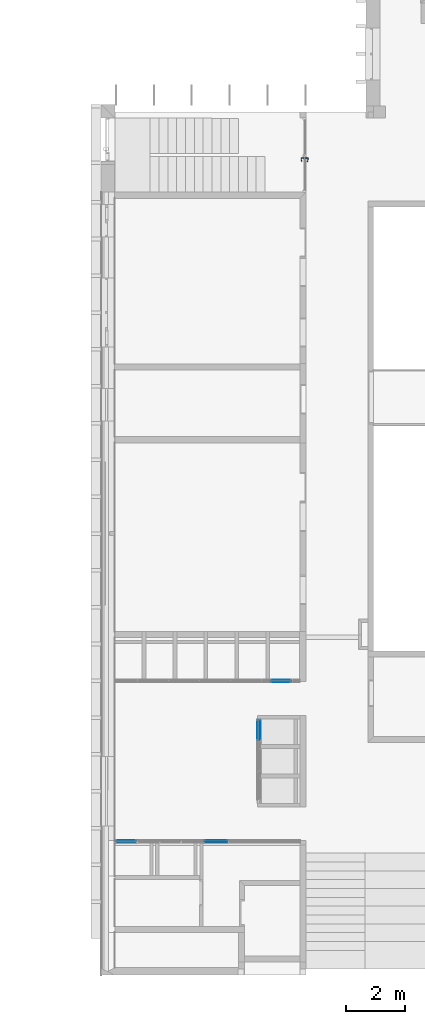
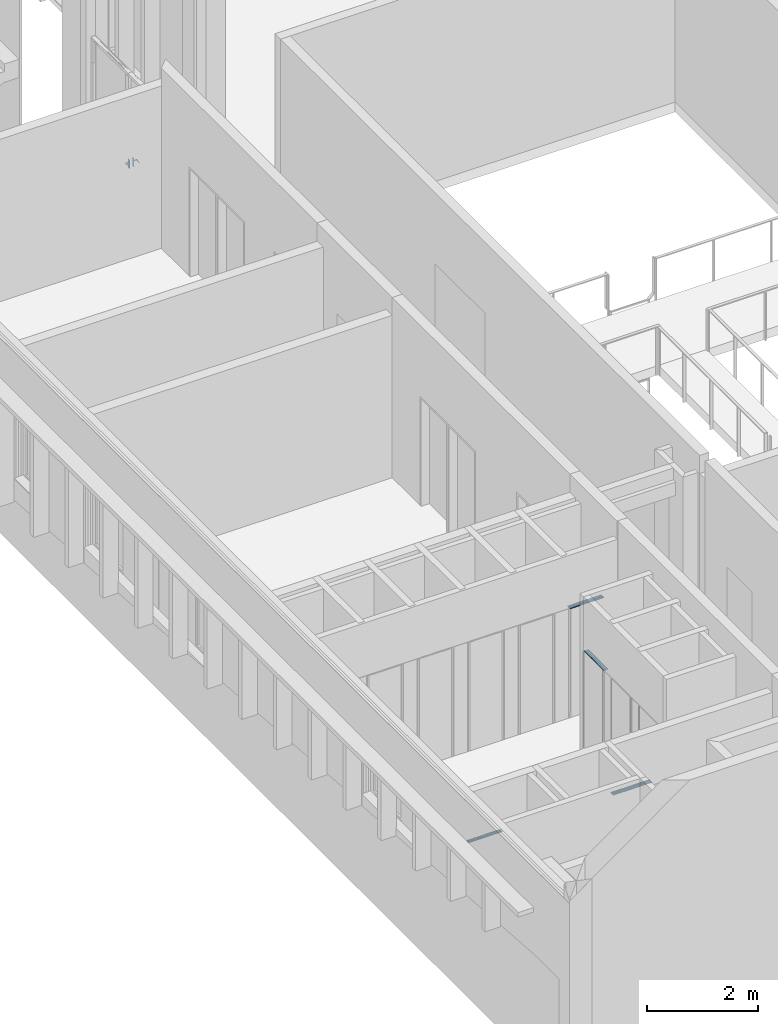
# One storey, part 65 of 89: 16 building element parts, 9 elements without a shape of their own.
"""IFC2X3 building model written with IfcOpenShell, lengths in millimetres."""

from ifc_helpers import new_model, entity, si_unit, converted_unit, derived_unit, money_unit, direction, frame, origin_with_axes, place, context, subcontext, project, spatial, open_shell, faceted_brep, surface_model, material, type_object, element, aggregate, save


model = new_model("IFC2X3")

# Units and contexts
model_context = context("Model", 3, precision=0.01, world=origin_with_axes(), true_north=direction((0.0, 1.0)))
body_context = subcontext(model_context, "Body", "Model", "MODEL_VIEW")
ifc_project = project(units=[si_unit("LENGTHUNIT", "METRE", prefix="MILLI"), si_unit("AREAUNIT", "SQUARE_METRE"), si_unit("VOLUMEUNIT", "CUBIC_METRE"), converted_unit("PLANEANGLEUNIT", "DEGREE", entity("IfcPlaneAngleMeasure", 0.0174532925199), si_unit("PLANEANGLEUNIT", "RADIAN"), dimensions=[0, 0, 0, 0, 0, 0, 0]), si_unit("SOLIDANGLEUNIT", "STERADIAN"), money_unit("EUR"), converted_unit("TIMEUNIT", "Year", entity("IfcTimeMeasure", 31556926.0), si_unit("TIMEUNIT", "SECOND"), dimensions=[0, 0, 1, 0, 0, 0, 0]), si_unit("MASSUNIT", "GRAM", prefix="KILO"), si_unit("THERMODYNAMICTEMPERATUREUNIT", "DEGREE_CELSIUS"), si_unit("LUMINOUSINTENSITYUNIT", "LUMEN"), si_unit("ENERGYUNIT", "JOULE", prefix="MEGA"), derived_unit("THERMALCONDUCTANCEUNIT", [(si_unit("POWERUNIT", "WATT"), 1), (si_unit("LENGTHUNIT", "METRE"), -1), (si_unit("THERMODYNAMICTEMPERATUREUNIT", "KELVIN"), -1)]), derived_unit("SPECIFICHEATCAPACITYUNIT", [(si_unit("ENERGYUNIT", "JOULE"), 1), (si_unit("MASSUNIT", "GRAM", prefix="KILO"), -1), (si_unit("THERMODYNAMICTEMPERATUREUNIT", "KELVIN"), -1)]), derived_unit("MASSDENSITYUNIT", [(si_unit("MASSUNIT", "GRAM", prefix="KILO"), 1), (si_unit("VOLUMEUNIT", "CUBIC_METRE"), -1)])], contexts=[model_context])

# Site, building, storey
site_placement = place(None, origin_with_axes())
site = spatial("IfcSite", under=ifc_project, at=site_placement, Name="Puškini 31, Narva", CompositionType="ELEMENT")
building_placement = place(site_placement, origin_with_axes())
building = spatial("IfcBuilding", under=site, at=building_placement, Name="Narva Riigigümnaasium", CompositionType="ELEMENT")
storey_placement = place(building_placement, frame((0.0, 0.0, -3300.0), z_axis=(0.0, 0.0, 1.0), x_axis=(1.0, 0.0, 0.0)))
storey = spatial("IfcBuildingStorey", under=building, at=storey_placement, Name="1.korrus -3.3", CompositionType="ELEMENT", Elevation=-3300.0)

# Curtain wall, plate, building element parts
curtain_wall_type = type_object("IfcCurtainWallType", Name="Curtain Wall Type", PredefinedType="NOTDEFINED")
curtain_wall_1_placement = place(storey_placement, frame((33249.9999781, 201010.999711, -1.71671428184e-05), z_axis=(0.0, 0.0, 1.0), x_axis=(1.0, 0.0, 0.0)))
curtain_wall_1 = element("IfcCurtainWall", 1, at=curtain_wall_1_placement, inside=storey, type_object=curtain_wall_type, Name="SUS-02")
plate_type_1 = type_object("IfcPlateType", Name="SA-Siseuksesüsteem-Paneel 700 x 10 x 0", PredefinedType="CURTAIN_PANEL")
plate_1_placement = place(curtain_wall_1_placement, frame((0.0, 2000.00000032, 2395.00000263), z_axis=(0.0, 0.0, 1.0), x_axis=(0.0, -1.0, 0.0)))
plate_1 = element("IfcPlate", 2, at=plate_1_placement, type_object=plate_type_1, Name="Panel-SA-Siseuks-083", ObjectType="CURTAIN_PANEL")
aggregate(curtain_wall_1, [plate_1])
ifc_material_1 = material(Name="MDF")
building_element_part_1_placement = place(plate_1_placement, origin_with_axes())
building_element_part_1 = element("IfcBuildingElementPart", 3, at=building_element_part_1_placement, material=ifc_material_1, Name="MDF", context=body_context, shape_type="Brep", body=[
    faceted_brep([(-350.0, 0.0, 5.0), (350.0, 0.0, 5.0), (350.0, 10.0, 5.0), (-350.0, 10.0, 5.0), (-350.0, 0.0, -5.0), (350.0, 0.0, -5.0), (350.0, 10.0, -5.0), (-350.0, 10.0, -5.0)], [[[0, 1, 2, 3]], [[0, 4, 5, 1]], [[1, 5, 6, 2]], [[3, 2, 6, 7]], [[4, 0, 3, 7]], [[5, 4, 7, 6]]]),
    faceted_brep([(-350.0, 84.0, 5.0), (350.0, 84.0, 5.0), (350.0, 92.0, 5.0), (-350.0, 92.0, 5.0), (-350.0, 84.0, -5.0), (350.0, 84.0, -5.0), (350.0, 92.0, -5.0), (-350.0, 92.0, -5.0)], [[[0, 1, 2, 3]], [[0, 4, 5, 1]], [[1, 5, 6, 2]], [[3, 2, 6, 7]], [[4, 0, 3, 7]], [[5, 4, 7, 6]]]),
])
ifc_material_2 = material(Name="Õhkvahe")
building_element_part_2_placement = place(plate_1_placement, origin_with_axes())
building_element_part_2 = element("IfcBuildingElementPart", 4, at=building_element_part_2_placement, material=ifc_material_2, Name="Õhkvahe", context=body_context, shape_type="Brep", body=[
    faceted_brep([(-350.0, 10.0, 5.0), (350.0, 10.0, 5.0), (350.0, 12.0, 5.0), (-350.0, 12.0, 5.0), (-350.0, 10.0, -5.0), (350.0, 10.0, -5.0), (350.0, 12.0, -5.0), (-350.0, 12.0, -5.0)], [[[0, 1, 2, 3]], [[0, 4, 5, 1]], [[1, 5, 6, 2]], [[3, 2, 6, 7]], [[4, 0, 3, 7]], [[5, 4, 7, 6]]]),
    faceted_brep([(-350.0, 38.0, 5.0), (350.0, 38.0, 5.0), (350.0, 42.0, 5.0), (-350.0, 42.0, 5.0), (-350.0, 38.0, -5.0), (350.0, 38.0, -5.0), (350.0, 42.0, -5.0), (-350.0, 42.0, -5.0)], [[[0, 1, 2, 3]], [[0, 4, 5, 1]], [[1, 5, 6, 2]], [[3, 2, 6, 7]], [[4, 0, 3, 7]], [[5, 4, 7, 6]]]),
    faceted_brep([(-350.0, 79.0, 5.0), (350.0, 79.0, 5.0), (350.0, 84.0, 5.0), (-350.0, 84.0, 5.0), (-350.0, 79.0, -5.0), (350.0, 79.0, -5.0), (350.0, 84.0, -5.0), (-350.0, 84.0, -5.0)], [[[0, 1, 2, 3]], [[0, 4, 5, 1]], [[1, 5, 6, 2]], [[3, 2, 6, 7]], [[4, 0, 3, 7]], [[5, 4, 7, 6]]]),
])
ifc_material_3 = material(Name="Kipsplaat")
building_element_part_3_placement = place(plate_1_placement, origin_with_axes())
building_element_part_3 = element("IfcBuildingElementPart", 5, at=building_element_part_3_placement, material=ifc_material_3, Name="Kipsplaat", context=body_context, shape_type="Brep", body=[
    faceted_brep([(-350.0, 12.0, 5.0), (350.0, 12.0, 5.0), (350.0, 25.0, 5.0), (-350.0, 25.0, 5.0), (-350.0, 12.0, -5.0), (350.0, 12.0, -5.0), (350.0, 25.0, -5.0), (-350.0, 25.0, -5.0)], [[[0, 1, 2, 3]], [[0, 4, 5, 1]], [[1, 5, 6, 2]], [[3, 2, 6, 7]], [[4, 0, 3, 7]], [[5, 4, 7, 6]]]),
    faceted_brep([(-350.0, 25.0, 5.0), (350.0, 25.0, 5.0), (350.0, 38.0, 5.0), (-350.0, 38.0, 5.0), (-350.0, 25.0, -5.0), (350.0, 25.0, -5.0), (350.0, 38.0, -5.0), (-350.0, 38.0, -5.0)], [[[0, 1, 2, 3]], [[0, 4, 5, 1]], [[1, 5, 6, 2]], [[3, 2, 6, 7]], [[4, 0, 3, 7]], [[5, 4, 7, 6]]]),
])
ifc_material_4 = material(Name="Klaasvill")
building_element_part_4_placement = place(plate_1_placement, origin_with_axes())
building_element_part_4 = element("IfcBuildingElementPart", 6, at=building_element_part_4_placement, material=ifc_material_4, Name="Klaasvill", context=body_context, shape_type="Brep", body=[
    faceted_brep([(-350.0, 42.0, 5.0), (350.0, 42.0, 5.0), (350.0, 79.0, 5.0), (-350.0, 79.0, 5.0), (-350.0, 42.0, -5.0), (350.0, 42.0, -5.0), (350.0, 79.0, -5.0), (-350.0, 79.0, -5.0)], [[[0, 1, 2, 3]], [[0, 4, 5, 1]], [[1, 5, 6, 2]], [[3, 2, 6, 7]], [[4, 0, 3, 7]], [[5, 4, 7, 6]]]),
])
aggregate(plate_1, [building_element_part_1, building_element_part_2, building_element_part_3, building_element_part_4])

# Curtain wall, plates, building element parts
curtain_wall_2_placement = place(storey_placement, frame((28798.9958137, 199279.999716, 0.0), z_axis=(0.0, 0.0, 1.0), x_axis=(1.0, 0.0, 0.0)))
curtain_wall_2 = element("IfcCurtainWall", 7, at=curtain_wall_2_placement, inside=storey, type_object=curtain_wall_type, Name="SUS-01")
plate_2_placement = place(curtain_wall_2_placement, frame((0.0, 0.0, 2394.9999372), z_axis=(0.0, 0.0, 1.0), x_axis=(-1.0, 0.0, 0.0)))
plate_2 = element("IfcPlate", 8, at=plate_2_placement, type_object=plate_type_1, Name="Panel-SA-Siseuks-090", ObjectType="CURTAIN_PANEL")
building_element_part_5_placement = place(plate_2_placement, origin_with_axes())
building_element_part_5 = element("IfcBuildingElementPart", 9, at=building_element_part_5_placement, material=ifc_material_2, Name="Õhkvahe", context=body_context, shape_type="Brep", body=[
    faceted_brep([(-350.004185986, 9.99999999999, 5.0), (350.004185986, 9.99999999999, 5.0), (350.004185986, 12.0, 5.0), (-350.004185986, 12.0, 5.0), (-350.004185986, 9.99999999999, -5.0), (350.004185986, 9.99999999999, -5.0), (350.004185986, 12.0, -5.0), (-350.004185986, 12.0, -5.0)], [[[0, 1, 2, 3]], [[0, 4, 5, 1]], [[1, 5, 6, 2]], [[3, 2, 6, 7]], [[4, 0, 3, 7]], [[5, 4, 7, 6]]]),
    faceted_brep([(-350.004185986, 38.0, 5.0), (350.004185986, 38.0, 5.0), (350.004185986, 42.0, 5.0), (-350.004185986, 42.0, 5.0), (-350.004185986, 38.0, -5.0), (350.004185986, 38.0, -5.0), (350.004185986, 42.0, -5.0), (-350.004185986, 42.0, -5.0)], [[[0, 1, 2, 3]], [[0, 4, 5, 1]], [[1, 5, 6, 2]], [[3, 2, 6, 7]], [[4, 0, 3, 7]], [[5, 4, 7, 6]]]),
    faceted_brep([(-350.004185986, 79.0, 5.0), (350.004185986, 79.0, 5.0), (350.004185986, 84.0, 5.0), (-350.004185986, 84.0, 5.0), (-350.004185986, 79.0, -5.0), (350.004185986, 79.0, -5.0), (350.004185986, 84.0, -5.0), (-350.004185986, 84.0, -5.0)], [[[0, 1, 2, 3]], [[0, 4, 5, 1]], [[1, 5, 6, 2]], [[3, 2, 6, 7]], [[4, 0, 3, 7]], [[5, 4, 7, 6]]]),
])
building_element_part_6_placement = place(plate_2_placement, origin_with_axes())
building_element_part_6 = element("IfcBuildingElementPart", 10, at=building_element_part_6_placement, material=ifc_material_3, Name="Kipsplaat", context=body_context, shape_type="Brep", body=[
    faceted_brep([(-350.004185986, 12.0, 5.0), (350.004185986, 12.0, 5.0), (350.004185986, 25.0, 5.0), (-350.004185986, 25.0, 5.0), (-350.004185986, 12.0, -5.0), (350.004185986, 12.0, -5.0), (350.004185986, 25.0, -5.0), (-350.004185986, 25.0, -5.0)], [[[0, 1, 2, 3]], [[0, 4, 5, 1]], [[1, 5, 6, 2]], [[3, 2, 6, 7]], [[4, 0, 3, 7]], [[5, 4, 7, 6]]]),
    faceted_brep([(-350.004185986, 25.0, 5.0), (350.004185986, 25.0, 5.0), (350.004185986, 38.0, 5.0), (-350.004185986, 38.0, 5.0), (-350.004185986, 25.0, -5.0), (350.004185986, 25.0, -5.0), (350.004185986, 38.0, -5.0), (-350.004185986, 38.0, -5.0)], [[[0, 1, 2, 3]], [[0, 4, 5, 1]], [[1, 5, 6, 2]], [[3, 2, 6, 7]], [[4, 0, 3, 7]], [[5, 4, 7, 6]]]),
])
building_element_part_7_placement = place(plate_2_placement, origin_with_axes())
building_element_part_7 = element("IfcBuildingElementPart", 11, at=building_element_part_7_placement, material=ifc_material_4, Name="Klaasvill", context=body_context, shape_type="Brep", body=[
    faceted_brep([(-350.004185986, 42.0, 5.0), (350.004185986, 42.0, 5.0), (350.004185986, 79.0, 5.0), (-350.004185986, 79.0, 5.0), (-350.004185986, 42.0, -5.0), (350.004185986, 42.0, -5.0), (350.004185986, 79.0, -5.0), (-350.004185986, 79.0, -5.0)], [[[0, 1, 2, 3]], [[0, 4, 5, 1]], [[1, 5, 6, 2]], [[3, 2, 6, 7]], [[4, 0, 3, 7]], [[5, 4, 7, 6]]]),
])
aggregate(plate_2, [building_element_part_5, building_element_part_6, building_element_part_7])
plate_type_2 = type_object("IfcPlateType", Name="SA-Siseuksesüsteem-Paneel 800 x 10 x 0", PredefinedType="CURTAIN_PANEL")
plate_3_placement = place(curtain_wall_2_placement, frame((3050.00418599, 0.0, 2394.9999372), z_axis=(0.0, 0.0, 1.0), x_axis=(-1.0, 0.0, 0.0)))
plate_3 = element("IfcPlate", 12, at=plate_3_placement, type_object=plate_type_2, Name="Panel-SA-Siseuks-094", ObjectType="CURTAIN_PANEL")
aggregate(curtain_wall_2, [plate_2, plate_3])
building_element_part_8_placement = place(plate_3_placement, origin_with_axes())
building_element_part_8 = element("IfcBuildingElementPart", 13, at=building_element_part_8_placement, material=ifc_material_1, Name="MDF", context=body_context, shape_type="Brep", body=[
    faceted_brep([(-400.0, 0.0, 5.0), (400.0, 0.0, 5.0), (400.0, 9.99999999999, 5.0), (-400.0, 9.99999999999, 5.0), (-400.0, 0.0, -5.0), (400.0, 0.0, -5.0), (400.0, 9.99999999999, -5.0), (-400.0, 9.99999999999, -5.0)], [[[0, 1, 2, 3]], [[0, 4, 5, 1]], [[1, 5, 6, 2]], [[3, 2, 6, 7]], [[4, 0, 3, 7]], [[5, 4, 7, 6]]]),
    faceted_brep([(-400.0, 84.0, 5.0), (400.0, 84.0, 5.0), (400.0, 92.0, 5.0), (-400.0, 92.0, 5.0), (-400.0, 84.0, -5.0), (400.0, 84.0, -5.0), (400.0, 92.0, -5.0), (-400.0, 92.0, -5.0)], [[[0, 1, 2, 3]], [[0, 4, 5, 1]], [[1, 5, 6, 2]], [[3, 2, 6, 7]], [[4, 0, 3, 7]], [[5, 4, 7, 6]]]),
])
building_element_part_9_placement = place(plate_3_placement, origin_with_axes())
building_element_part_9 = element("IfcBuildingElementPart", 14, at=building_element_part_9_placement, material=ifc_material_2, Name="Õhkvahe", context=body_context, shape_type="Brep", body=[
    faceted_brep([(-400.0, 9.99999999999, 5.0), (400.0, 9.99999999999, 5.0), (400.0, 12.0, 5.0), (-400.0, 12.0, 5.0), (-400.0, 9.99999999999, -5.0), (400.0, 9.99999999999, -5.0), (400.0, 12.0, -5.0), (-400.0, 12.0, -5.0)], [[[0, 1, 2, 3]], [[0, 4, 5, 1]], [[1, 5, 6, 2]], [[3, 2, 6, 7]], [[4, 0, 3, 7]], [[5, 4, 7, 6]]]),
    faceted_brep([(-400.0, 38.0, 5.0), (400.0, 38.0, 5.0), (400.0, 42.0, 5.0), (-400.0, 42.0, 5.0), (-400.0, 38.0, -5.0), (400.0, 38.0, -5.0), (400.0, 42.0, -5.0), (-400.0, 42.0, -5.0)], [[[0, 1, 2, 3]], [[0, 4, 5, 1]], [[1, 5, 6, 2]], [[3, 2, 6, 7]], [[4, 0, 3, 7]], [[5, 4, 7, 6]]]),
    faceted_brep([(-400.0, 79.0, 5.0), (400.0, 79.0, 5.0), (400.0, 84.0, 5.0), (-400.0, 84.0, 5.0), (-400.0, 79.0, -5.0), (400.0, 79.0, -5.0), (400.0, 84.0, -5.0), (-400.0, 84.0, -5.0)], [[[0, 1, 2, 3]], [[0, 4, 5, 1]], [[1, 5, 6, 2]], [[3, 2, 6, 7]], [[4, 0, 3, 7]], [[5, 4, 7, 6]]]),
])
building_element_part_10_placement = place(plate_3_placement, origin_with_axes())
building_element_part_10 = element("IfcBuildingElementPart", 15, at=building_element_part_10_placement, material=ifc_material_3, Name="Kipsplaat", context=body_context, shape_type="Brep", body=[
    faceted_brep([(-400.0, 12.0, 5.0), (400.0, 12.0, 5.0), (400.0, 25.0, 5.0), (-400.0, 25.0, 5.0), (-400.0, 12.0, -5.0), (400.0, 12.0, -5.0), (400.0, 25.0, -5.0), (-400.0, 25.0, -5.0)], [[[0, 1, 2, 3]], [[0, 4, 5, 1]], [[1, 5, 6, 2]], [[3, 2, 6, 7]], [[4, 0, 3, 7]], [[5, 4, 7, 6]]]),
    faceted_brep([(-400.0, 25.0, 5.0), (400.0, 25.0, 5.0), (400.0, 38.0, 5.0), (-400.0, 38.0, 5.0), (-400.0, 25.0, -5.0), (400.0, 25.0, -5.0), (400.0, 38.0, -5.0), (-400.0, 38.0, -5.0)], [[[0, 1, 2, 3]], [[0, 4, 5, 1]], [[1, 5, 6, 2]], [[3, 2, 6, 7]], [[4, 0, 3, 7]], [[5, 4, 7, 6]]]),
])
building_element_part_11_placement = place(plate_3_placement, origin_with_axes())
building_element_part_11 = element("IfcBuildingElementPart", 16, at=building_element_part_11_placement, material=ifc_material_4, Name="Klaasvill", context=body_context, shape_type="Brep", body=[
    faceted_brep([(-400.0, 42.0, 5.0), (400.0, 42.0, 5.0), (400.0, 79.0, 5.0), (-400.0, 79.0, 5.0), (-400.0, 42.0, -5.0), (400.0, 42.0, -5.0), (400.0, 79.0, -5.0), (-400.0, 79.0, -5.0)], [[[0, 1, 2, 3]], [[0, 4, 5, 1]], [[1, 5, 6, 2]], [[3, 2, 6, 7]], [[4, 0, 3, 7]], [[5, 4, 7, 6]]]),
])
aggregate(plate_3, [building_element_part_8, building_element_part_9, building_element_part_10, building_element_part_11])

# Curtain wall, plate, building element parts
curtain_wall_3_placement = place(storey_placement, frame((34541.9999996, 204639.999743, 1.06559201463e-05), z_axis=(0.0, 0.0, 1.0), x_axis=(1.0, 0.0, 0.0)))
curtain_wall_3 = element("IfcCurtainWall", 17, at=curtain_wall_3_placement, inside=storey, type_object=curtain_wall_type, Name="SUS-03")
plate_4_placement = place(curtain_wall_3_placement, frame((-493.087583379, 0.0, 2394.99996419), z_axis=(0.0, 0.0, 1.0), x_axis=(1.0, 0.0, 0.0)))
plate_4 = element("IfcPlate", 18, at=plate_4_placement, type_object=plate_type_1, Name="Panel-SA-Siseuks-063", ObjectType="CURTAIN_PANEL")
aggregate(curtain_wall_3, [plate_4])
building_element_part_12_placement = place(plate_4_placement, origin_with_axes())
building_element_part_12 = element("IfcBuildingElementPart", 19, at=building_element_part_12_placement, material=ifc_material_1, Name="MDF", context=body_context, shape_type="Brep", body=[
    faceted_brep([(-350.087583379, 0.0, 5.00000532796), (350.087583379, 0.0, 5.00000532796), (350.087583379, 9.99999999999, 5.00000532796), (-350.087583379, 9.99999999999, 5.00000532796), (-350.087583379, 0.0, -5.00000532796), (350.087583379, 0.0, -5.00000532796), (350.087583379, 9.99999999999, -5.00000532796), (-350.087583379, 9.99999999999, -5.00000532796)], [[[0, 1, 2, 3]], [[0, 4, 5, 1]], [[1, 5, 6, 2]], [[3, 2, 6, 7]], [[4, 0, 3, 7]], [[5, 4, 7, 6]]]),
    faceted_brep([(-350.087583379, 84.0, 5.00000532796), (350.087583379, 84.0, 5.00000532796), (350.087583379, 92.0, 5.00000532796), (-350.087583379, 92.0, 5.00000532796), (-350.087583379, 84.0, -5.00000532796), (350.087583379, 84.0, -5.00000532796), (350.087583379, 92.0, -5.00000532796), (-350.087583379, 92.0, -5.00000532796)], [[[0, 1, 2, 3]], [[0, 4, 5, 1]], [[1, 5, 6, 2]], [[3, 2, 6, 7]], [[4, 0, 3, 7]], [[5, 4, 7, 6]]]),
])
building_element_part_13_placement = place(plate_4_placement, origin_with_axes())
building_element_part_13 = element("IfcBuildingElementPart", 20, at=building_element_part_13_placement, material=ifc_material_2, Name="Õhkvahe", context=body_context, shape_type="Brep", body=[
    faceted_brep([(-350.087583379, 9.99999999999, 5.00000532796), (350.087583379, 9.99999999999, 5.00000532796), (350.087583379, 12.0, 5.00000532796), (-350.087583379, 12.0, 5.00000532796), (-350.087583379, 9.99999999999, -5.00000532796), (350.087583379, 9.99999999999, -5.00000532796), (350.087583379, 12.0, -5.00000532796), (-350.087583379, 12.0, -5.00000532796)], [[[0, 1, 2, 3]], [[0, 4, 5, 1]], [[1, 5, 6, 2]], [[3, 2, 6, 7]], [[4, 0, 3, 7]], [[5, 4, 7, 6]]]),
    faceted_brep([(-350.087583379, 38.0, 5.00000532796), (350.087583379, 38.0, 5.00000532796), (350.087583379, 42.0, 5.00000532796), (-350.087583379, 42.0, 5.00000532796), (-350.087583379, 38.0, -5.00000532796), (350.087583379, 38.0, -5.00000532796), (350.087583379, 42.0, -5.00000532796), (-350.087583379, 42.0, -5.00000532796)], [[[0, 1, 2, 3]], [[0, 4, 5, 1]], [[1, 5, 6, 2]], [[3, 2, 6, 7]], [[4, 0, 3, 7]], [[5, 4, 7, 6]]]),
    faceted_brep([(-350.087583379, 79.0, 5.00000532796), (350.087583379, 79.0, 5.00000532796), (350.087583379, 84.0, 5.00000532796), (-350.087583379, 84.0, 5.00000532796), (-350.087583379, 79.0, -5.00000532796), (350.087583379, 79.0, -5.00000532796), (350.087583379, 84.0, -5.00000532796), (-350.087583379, 84.0, -5.00000532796)], [[[0, 1, 2, 3]], [[0, 4, 5, 1]], [[1, 5, 6, 2]], [[3, 2, 6, 7]], [[4, 0, 3, 7]], [[5, 4, 7, 6]]]),
])
building_element_part_14_placement = place(plate_4_placement, origin_with_axes())
building_element_part_14 = element("IfcBuildingElementPart", 21, at=building_element_part_14_placement, material=ifc_material_3, Name="Kipsplaat", context=body_context, shape_type="Brep", body=[
    faceted_brep([(-350.087583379, 12.0, 5.00000532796), (350.087583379, 12.0, 5.00000532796), (350.087583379, 25.0, 5.00000532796), (-350.087583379, 25.0, 5.00000532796), (-350.087583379, 12.0, -5.00000532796), (350.087583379, 12.0, -5.00000532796), (350.087583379, 25.0, -5.00000532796), (-350.087583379, 25.0, -5.00000532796)], [[[0, 1, 2, 3]], [[0, 4, 5, 1]], [[1, 5, 6, 2]], [[3, 2, 6, 7]], [[4, 0, 3, 7]], [[5, 4, 7, 6]]]),
    faceted_brep([(-350.087583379, 25.0, 5.00000532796), (350.087583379, 25.0, 5.00000532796), (350.087583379, 38.0, 5.00000532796), (-350.087583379, 38.0, 5.00000532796), (-350.087583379, 25.0, -5.00000532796), (350.087583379, 25.0, -5.00000532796), (350.087583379, 38.0, -5.00000532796), (-350.087583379, 38.0, -5.00000532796)], [[[0, 1, 2, 3]], [[0, 4, 5, 1]], [[1, 5, 6, 2]], [[3, 2, 6, 7]], [[4, 0, 3, 7]], [[5, 4, 7, 6]]]),
])
building_element_part_15_placement = place(plate_4_placement, origin_with_axes())
building_element_part_15 = element("IfcBuildingElementPart", 22, at=building_element_part_15_placement, material=ifc_material_4, Name="Klaasvill", context=body_context, shape_type="Brep", body=[
    faceted_brep([(-350.087583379, 42.0, 5.00000532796), (350.087583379, 42.0, 5.00000532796), (350.087583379, 79.0, 5.00000532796), (-350.087583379, 79.0, 5.00000532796), (-350.087583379, 42.0, -5.00000532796), (350.087583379, 42.0, -5.00000532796), (350.087583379, 79.0, -5.00000532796), (-350.087583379, 79.0, -5.00000532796)], [[[0, 1, 2, 3]], [[0, 4, 5, 1]], [[1, 5, 6, 2]], [[3, 2, 6, 7]], [[4, 0, 3, 7]], [[5, 4, 7, 6]]]),
])
aggregate(plate_4, [building_element_part_12, building_element_part_13, building_element_part_14, building_element_part_15])

# Curtain wall, door, building element part
curtain_wall_4_placement = place(storey_placement, frame((34855.0104166, 221770.599999, -2.45869391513e-05), z_axis=(0.0, 0.0, 1.0), x_axis=(1.0, 0.0, 0.0)))
curtain_wall_4 = element("IfcCurtainWall", 23, at=curtain_wall_4_placement, inside=storey, type_object=curtain_wall_type, Name="G-SKLF-08")
door_style = type_object("IfcDoorStyle", Name="1132 x 2369 x 20", ConstructionType="NOTDEFINED", OperationType="NOTDEFINED", ParameterTakesPrecedence=False, Sizeable=False)
door_placement = place(curtain_wall_4_placement, frame((0.0, 0.0, 960.000024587), z_axis=(0.0, 0.0, 1.0), x_axis=(4.3055573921e-06, -0.999999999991, 0.0)))
door = element("IfcDoor", 24, at=door_placement, type_object=door_style, Name="G-SKLF-08-U1", ObjectType="DOOR")
aggregate(curtain_wall_4, [door])
ifc_material_5 = material(Name="ET-07_Teras - Roostevaba")
building_element_part_16_placement = place(door_placement, origin_with_axes())
building_element_part_16 = element("IfcBuildingElementPart", 25, at=building_element_part_16_placement, material=ifc_material_5, Name="ET-07_Teras - Roostevaba", context=body_context, shape_type="SurfaceModel", body=[
    faceted_brep([(-697.9, -45.0, 120.0), (-697.9, -48.0, 120.0), (-640.9, -48.0, 120.0), (-640.9, -45.0, 120.0), (-697.9, -45.0, -70.0), (-697.9, -48.0, -70.0), (-640.9, -48.0, -70.0), (-640.9, -45.0, -70.0)], [[[0, 1, 2, 3]], [[4, 5, 1, 0]], [[1, 5, 6, 2]], [[3, 2, 6, 7]], [[0, 3, 7, 4]], [[7, 6, 5, 4]]]),
    surface_model("IfcShellBasedSurfaceModel", [(-669.4, -109.0, 50.0), (-669.4, -116.0, 50.0), (-678.060254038, -116.0, 55.0), (-678.060254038, -109.0, 55.0), (-644.4, -109.0, 50.0), (-644.4, -116.0, 50.0), (-644.4, -116.0, 70.0), (-669.4, -116.0, 70.0), (-678.060254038, -116.0, 65.0), (-678.060254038, -109.0, 65.0), (-669.4, -109.0, 70.0), (-644.4, -109.0, 70.0)], [open_shell([[[0, 1, 2, 3]], [[4, 5, 1, 0]], [[1, 5, 6, 7, 8, 2]], [[3, 2, 8, 9]], [[0, 3, 9, 10, 11, 4]], [[10, 7, 6, 11]], [[9, 8, 7, 10]]])]),
    surface_model("IfcShellBasedSurfaceModel", [(-644.4, -109.0, 70.0), (-630.996090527, -116.0, 69.6073009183), (-631.301717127, -109.0, 69.6073009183), (-644.4, -116.0, 70.0), (-604.290283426, -113.663544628, 68.8219027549), (-631.301717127, -109.0, 50.3926990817), (-644.4, -109.0, 50.0), (-644.4, -116.0, 50.0), (-630.996090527, -116.0, 50.3926990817), (-604.290283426, -113.663544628, 51.1780972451), (-605.204837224, -106.716818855, 68.8219027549), (-605.204837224, -106.716818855, 51.1780972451), (-577.889735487, -109.008415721, 51.9634954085), (-577.889735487, -109.008415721, 68.0365045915), (-579.406256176, -102.167832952, 68.0365045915), (-579.406256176, -102.167832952, 51.9634954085), (-551.99537082, -102.07004162, 52.7488935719), (-551.99537082, -102.07004162, 67.2511064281), (-554.102316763, -95.3876628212, 67.2511064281), (-554.102316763, -95.3876628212, 52.7488935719), (-543.938795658, -99.1376880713, 53.0), (-543.938795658, -99.1376880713, 67.0), (-546.229442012, -92.5221707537, 67.0), (-546.229442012, -92.5221707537, 53.0)], [open_shell([[[0, 1, 2]], [[0, 3, 1]], [[2, 1, 4]], [[0, 2, 5, 6]], [[3, 7, 8, 1]], [[1, 8, 9, 4]], [[2, 4, 10]], [[2, 10, 11, 5]], [[5, 7, 6]], [[5, 8, 7]], [[11, 9, 8]], [[4, 9, 12, 13]], [[10, 4, 13]], [[10, 14, 15, 11]], [[11, 8, 5]], [[15, 9, 11]], [[15, 12, 9]], [[13, 12, 16, 17]], [[10, 13, 14]], [[14, 18, 19, 15]], [[19, 12, 15]], [[19, 16, 12]], [[17, 16, 20, 21]], [[14, 13, 17]], [[14, 17, 18]], [[18, 22, 23, 19]], [[23, 16, 19]], [[23, 20, 16]], [[22, 21, 20, 23]], [[18, 17, 21]], [[18, 21, 22]]])]),
    faceted_brep([(-665.691796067, -58.0, 48.5873218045), (-665.382779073, -48.0, 47.6362652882), (-656.4, -48.0, 60.0), (-657.4, -58.0, 60.0), (-679.108203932, -58.0, 52.9465769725), (-679.917220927, -48.0, 52.3587917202), (-679.917220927, -48.0, 67.6412082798), (-665.382779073, -48.0, 72.3637347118), (-665.691796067, -58.0, 71.4126781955), (-679.108203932, -58.0, 67.0534230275)], [[[0, 1, 2, 3]], [[4, 5, 1, 0]], [[2, 1, 5, 6, 7]], [[3, 2, 7, 8]], [[3, 8, 9, 4, 0]], [[9, 6, 5, 4]], [[8, 7, 6, 9]]]),
    faceted_brep([(-663.219660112, -52.0, -54.0211303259), (-662.601626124, -48.0, -55.9232433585), (-647.4, -48.0, -35.0), (-649.4, -52.0, -35.0), (-685.580339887, -52.0, -46.7557050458), (-687.198373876, -48.0, -47.9312755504), (-687.198373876, -48.0, -22.0687244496), (-662.601626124, -48.0, -14.0767566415), (-663.219660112, -52.0, -15.9788696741), (-685.580339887, -52.0, -23.2442949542)], [[[0, 1, 2, 3]], [[4, 5, 1, 0]], [[2, 1, 5, 6, 7]], [[3, 2, 7, 8]], [[3, 8, 9, 4, 0]], [[9, 6, 5, 4]], [[8, 7, 6, 9]]]),
    faceted_brep([(-667.236881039, -54.0, -32.6573956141), (-666.927864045, -52.0, -33.6084521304), (-661.4, -52.0, -26.0), (-662.4, -54.0, -26.0), (-675.063118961, -54.0, -30.114496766), (-675.872135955, -52.0, -30.7022820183), (-675.872135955, -52.0, -21.2977179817), (-666.927864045, -52.0, -18.3915478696), (-667.236881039, -54.0, -19.3426043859), (-675.063118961, -54.0, -21.885503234)], [[[0, 1, 2, 3]], [[4, 5, 1, 0]], [[2, 1, 5, 6, 7]], [[3, 2, 7, 8]], [[3, 8, 9, 4, 0]], [[9, 6, 5, 4]], [[8, 7, 6, 9]]]),
    faceted_brep([(-669.4, -58.0, 70.0), (-669.4, -109.0, 70.0), (-659.889434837, -109.0, 63.0901699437), (-659.889434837, -58.0, 63.0901699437), (-678.910565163, -58.0, 63.0901699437), (-678.910565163, -109.0, 63.0901699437), (-675.277852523, -109.0, 51.9098300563), (-663.522147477, -109.0, 51.9098300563), (-663.522147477, -58.0, 51.9098300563), (-675.277852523, -58.0, 51.9098300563)], [[[0, 1, 2, 3]], [[4, 5, 1, 0]], [[1, 5, 6, 7, 2]], [[3, 2, 7, 8]], [[0, 3, 8, 9, 4]], [[9, 6, 5, 4]], [[8, 7, 6, 9]]]),
    faceted_brep([(-697.9, 45.0, 120.0), (-640.9, 45.0, 120.0), (-640.9, 48.0, 120.0), (-697.9, 48.0, 120.0), (-697.9, 45.0, -70.0), (-640.9, 45.0, -70.0), (-640.9, 48.0, -70.0), (-697.9, 48.0, -70.0)], [[[0, 1, 2, 3]], [[0, 4, 5, 1]], [[1, 5, 6, 2]], [[3, 2, 6, 7]], [[4, 0, 3, 7]], [[5, 4, 7, 6]]]),
    surface_model("IfcShellBasedSurfaceModel", [(-669.4, 109.0, 50.0), (-678.060254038, 109.0, 55.0), (-678.060254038, 116.0, 55.0), (-669.4, 116.0, 50.0), (-644.4, 109.0, 50.0), (-644.4, 109.0, 70.0), (-669.4, 109.0, 70.0), (-678.060254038, 109.0, 65.0), (-678.060254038, 116.0, 65.0), (-669.4, 116.0, 70.0), (-644.4, 116.0, 70.0), (-644.4, 116.0, 50.0)], [open_shell([[[0, 1, 2, 3]], [[0, 4, 5, 6, 7, 1]], [[1, 7, 8, 2]], [[3, 2, 8, 9, 10, 11]], [[4, 0, 3, 11]], [[6, 5, 10, 9]], [[7, 6, 9, 8]]])]),
    surface_model("IfcShellBasedSurfaceModel", [(-644.4, 109.0, 70.0), (-631.301717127, 109.0, 69.6073009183), (-630.996090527, 116.0, 69.6073009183), (-644.4, 109.0, 50.0), (-631.301717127, 109.0, 50.3926990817), (-604.290283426, 113.663544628, 68.8219027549), (-644.4, 116.0, 70.0), (-644.4, 116.0, 50.0), (-605.204837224, 106.716818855, 51.1780972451), (-605.204837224, 106.716818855, 68.8219027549), (-604.290283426, 113.663544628, 51.1780972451), (-630.996090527, 116.0, 50.3926990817), (-579.406256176, 102.167832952, 51.9634954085), (-579.406256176, 102.167832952, 68.0365045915), (-577.889735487, 109.008415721, 68.0365045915), (-577.889735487, 109.008415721, 51.9634954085), (-554.102316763, 95.3876628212, 52.7488935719), (-554.102316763, 95.3876628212, 67.2511064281), (-551.99537082, 102.07004162, 67.2511064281), (-551.99537082, 102.07004162, 52.7488935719), (-546.229442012, 92.5221707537, 53.0), (-546.229442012, 92.5221707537, 67.0), (-543.938795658, 99.1376880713, 67.0), (-543.938795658, 99.1376880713, 53.0)], [open_shell([[[0, 1, 2]], [[0, 3, 4, 1]], [[1, 5, 2]], [[0, 2, 6]], [[4, 3, 7]], [[1, 4, 8, 9]], [[1, 9, 5]], [[2, 5, 10, 11]], [[6, 2, 11, 7]], [[4, 7, 11]], [[8, 4, 11]], [[9, 8, 12, 13]], [[9, 14, 5]], [[5, 14, 15, 10]], [[8, 11, 10]], [[12, 8, 10]], [[13, 12, 16, 17]], [[9, 13, 14]], [[14, 18, 19, 15]], [[12, 10, 15]], [[16, 12, 15]], [[17, 16, 20, 21]], [[13, 17, 18]], [[13, 18, 14]], [[18, 22, 23, 19]], [[16, 15, 19]], [[20, 16, 19]], [[21, 20, 23, 22]], [[17, 21, 22]], [[17, 22, 18]], [[20, 19, 23]]])]),
    faceted_brep([(-665.691796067, 58.0, 48.5873218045), (-657.4, 58.0, 60.0), (-656.4, 48.0, 60.0), (-665.382779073, 48.0, 47.6362652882), (-679.108203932, 58.0, 52.9465769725), (-679.108203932, 58.0, 67.0534230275), (-665.691796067, 58.0, 71.4126781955), (-665.382779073, 48.0, 72.3637347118), (-679.917220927, 48.0, 67.6412082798), (-679.917220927, 48.0, 52.3587917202)], [[[0, 1, 2, 3]], [[1, 0, 4, 5, 6]], [[1, 6, 7, 2]], [[2, 7, 8, 9, 3]], [[4, 0, 3, 9]], [[5, 4, 9, 8]], [[6, 5, 8, 7]]]),
    faceted_brep([(-663.219660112, 52.0, -54.0211303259), (-649.4, 52.0, -35.0), (-647.4, 48.0, -35.0), (-662.601626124, 48.0, -55.9232433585), (-685.580339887, 52.0, -46.7557050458), (-685.580339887, 52.0, -23.2442949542), (-663.219660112, 52.0, -15.9788696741), (-662.601626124, 48.0, -14.0767566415), (-687.198373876, 48.0, -22.0687244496), (-687.198373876, 48.0, -47.9312755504)], [[[0, 1, 2, 3]], [[1, 0, 4, 5, 6]], [[1, 6, 7, 2]], [[2, 7, 8, 9, 3]], [[4, 0, 3, 9]], [[5, 4, 9, 8]], [[6, 5, 8, 7]]]),
    faceted_brep([(-667.236881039, 54.0, -32.6573956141), (-662.4, 54.0, -26.0), (-661.4, 52.0, -26.0), (-666.927864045, 52.0, -33.6084521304), (-675.063118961, 54.0, -30.114496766), (-675.063118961, 54.0, -21.885503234), (-667.236881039, 54.0, -19.3426043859), (-666.927864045, 52.0, -18.3915478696), (-675.872135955, 52.0, -21.2977179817), (-675.872135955, 52.0, -30.7022820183)], [[[0, 1, 2, 3]], [[1, 0, 4, 5, 6]], [[1, 6, 7, 2]], [[2, 7, 8, 9, 3]], [[4, 0, 3, 9]], [[5, 4, 9, 8]], [[6, 5, 8, 7]]]),
    faceted_brep([(-669.4, 58.0, 70.0), (-659.889434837, 58.0, 63.0901699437), (-659.889434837, 109.0, 63.0901699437), (-669.4, 109.0, 70.0), (-678.910565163, 58.0, 63.0901699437), (-675.277852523, 58.0, 51.9098300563), (-663.522147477, 58.0, 51.9098300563), (-663.522147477, 109.0, 51.9098300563), (-675.277852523, 109.0, 51.9098300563), (-678.910565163, 109.0, 63.0901699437)], [[[0, 1, 2, 3]], [[0, 4, 5, 6, 1]], [[1, 6, 7, 2]], [[3, 2, 7, 8, 9]], [[4, 0, 3, 9]], [[5, 4, 9, 8]], [[6, 5, 8, 7]]]),
])
aggregate(door, [building_element_part_16])

save(model, "model.ifc")
